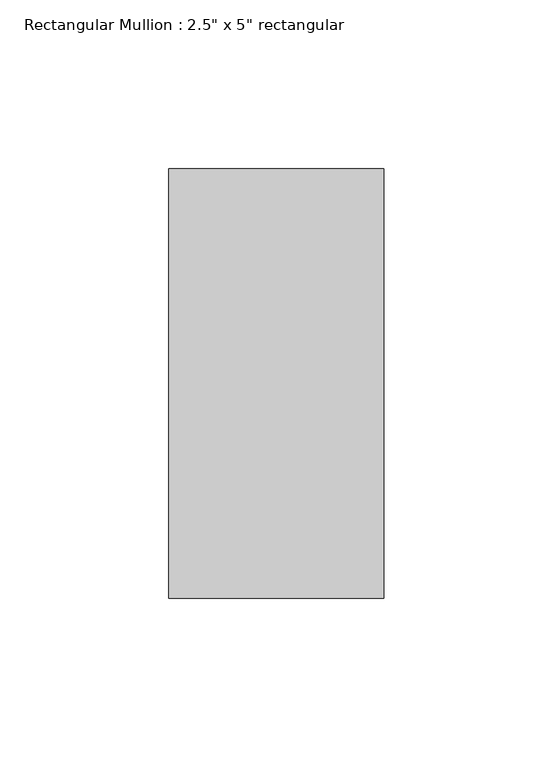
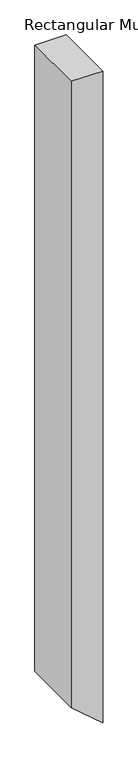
"""IFC4 building model written with IfcOpenShell, lengths in millimetres: member geometry."""

from ifc_helpers import new_model, si_unit, frame, origin, place, context, project, spatial, polyline, outline, extrude, source, transform, mapped, element, save


def member_a38225a8(model_context):
    return source(origin(), model_context, "Body", "SweptSolid", [
        extrude(outline(polyline([(0.0, 0.0), (0.0, -63.5), (-1333.5869879, -63.5), (-1388.0447167, 0.0), (0.0, 0.0)])), frame((0.0, -63.5, 0.0), z_axis=(0.0, 1.0, 0.0), x_axis=(0.0, 0.0, 1.0)), (0.0, 0.0, 1.0), 127.0),
    ])


if __name__ == "__main__":
    model = new_model("IFC4")
    model_context = context("Model", 3, world=origin())
    ifc_project = project(units=[si_unit("LENGTHUNIT", "METRE", prefix="MILLI")], contexts=[model_context])
    site = spatial("IfcSite", under=ifc_project)
    building = spatial("IfcBuilding", under=site)
    placement = place(None, origin())
    member_shape = member_a38225a8(model_context)
    element("IfcMember", 1, ObjectType="Rectangular Mullion : 2.5\" x 5\" rectangular", at=placement, inside=building, context=model_context, shape_type="MappedRepresentation", body=[
        mapped(member_shape, transform((0.0, 0.0, 0.0), x_axis=(1.0, 0.0, 0.0), y_axis=(0.0, 1.0, 0.0), z_axis=(0.0, 0.0, 1.0))),
    ])
    save(model, "model.ifc")
